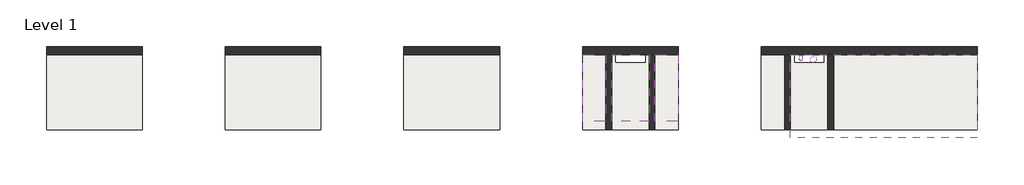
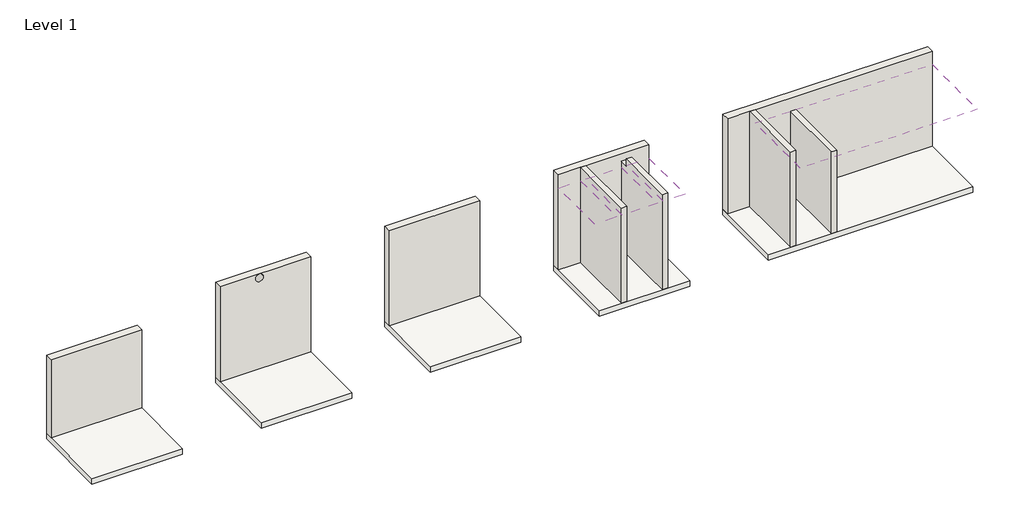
# One storey, incomplete: 9 walls, 5 slabs, 4 coverings, 2 duct fittings.
"""IFC4 building model written with IfcOpenShell, lengths in millimetres."""

from ifc_helpers import new_model, si_unit, point, frame, frame_2d, origin, place, context, project, spatial, polyline, circle_curve, trimmed, segment, composite_curve, outline, extrude, faceted_brep, transform, mapped, element, save
from components import duct_fitting_cf8d5976, duct_fitting_80_125_7c03a684

model = new_model("IFC4")

# Units and contexts
model_context = context("Model", 3, world=origin())
ifc_project = project(units=[si_unit("LENGTHUNIT", "METRE", prefix="MILLI")], contexts=[model_context])

# Site, building, storey
site = spatial("IfcSite", under=ifc_project)
building = spatial("IfcBuilding", under=site)
storey = spatial("IfcBuildingStorey", under=building, Name="Level 1", Elevation=113.9019715)

# Coverings
placement = place(None, origin())
element("IfcCovering", 1, ObjectType="Plain", at=placement, inside=storey, context=model_context, shape_type="SweptSolid", body=[
    extrude(outline(polyline([(6215.1118885, 3392.2435118), (6215.1118885, 1392.2435118), (1715.1118885, 1392.2435118), (1715.1118885, 3392.2435118), (6215.1118885, 3392.2435118)]), holes=[composite_curve([segment(trimmed(circle_curve(frame_2d((2068.1118885, 3289.565679)), 67.0), [point((2001.1118885, 3289.565679))], [point((2135.1118885, 3289.565679))], True, "CARTESIAN"), True, "CONTINUOUS"), segment(trimmed(circle_curve(frame_2d((2068.1118885, 3289.565679)), 67.0), [point((2135.1118885, 3289.565679))], [point((2001.1118885, 3289.565679))], True, "CARTESIAN"), True, "CONTINUOUS")], self_intersect=False), composite_curve([segment(trimmed(circle_curve(frame_2d((2262.1118885, 3284.565679)), 85.0), [point((2177.1118885, 3284.565679))], [point((2347.1118885, 3284.565679))], True, "CARTESIAN"), True, "CONTINUOUS"), segment(trimmed(circle_curve(frame_2d((2262.1118885, 3284.565679)), 85.0), [point((2347.1118885, 3284.565679))], [point((2177.1118885, 3284.565679))], True, "CARTESIAN"), True, "CONTINUOUS")], self_intersect=False), composite_curve([segment(trimmed(circle_curve(frame_2d((2540.1118885, 3284.565679)), 70.0), [point((2470.1118885, 3284.565679))], [point((2610.1118885, 3284.565679))], True, "CARTESIAN"), True, "CONTINUOUS"), segment(trimmed(circle_curve(frame_2d((2540.1118885, 3284.565679)), 70.0), [point((2610.1118885, 3284.565679))], [point((2470.1118885, 3284.565679))], True, "CARTESIAN"), True, "CONTINUOUS")], self_intersect=False), composite_curve([segment(trimmed(circle_curve(frame_2d((4839.1118885, 1822.2435118)), 71.0), [point((4768.1118885, 1822.2435118))], [point((4910.1118885, 1822.2435118))], True, "CARTESIAN"), True, "CONTINUOUS"), segment(trimmed(circle_curve(frame_2d((4839.1118885, 1822.2435118)), 71.0), [point((4910.1118885, 1822.2435118))], [point((4768.1118885, 1822.2435118))], True, "CARTESIAN"), True, "CONTINUOUS")], self_intersect=False)]), frame((0.0, 0.0, 2313.9019715), z_axis=(0.0, 0.0, 1.0), x_axis=(1.0, 0.0, 0.0)), (0.0, 0.0, 1.0), 57.0),
])
element("IfcCovering", 2, ObjectType="Plain", at=placement, inside=storey, context=model_context, shape_type="SweptSolid", body=[
    extrude(outline(polyline([(-2724.8881115, 3392.2435118), (-2724.8881115, 1792.2435118), (-3284.8881115, 1792.2435118), (-3284.8881115, 3392.2435118), (-2724.8881115, 3392.2435118)])), frame((0.0, 0.0, 2313.9019715), z_axis=(0.0, 0.0, 1.0), x_axis=(1.0, 0.0, 0.0)), (0.0, 0.0, 1.0), 57.0),
])
element("IfcCovering", 3, ObjectType="Plain", at=placement, inside=storey, context=model_context, shape_type="SweptSolid", body=[
    extrude(outline(polyline([(-984.8881115, 3392.2435118), (-984.8881115, 1792.2435118), (-1544.8881115, 1792.2435118), (-1544.8881115, 3392.2435118), (-984.8881115, 3392.2435118)])), frame((0.0, 0.0, 2313.9019715), z_axis=(0.0, 0.0, 1.0), x_axis=(1.0, 0.0, 0.0)), (0.0, 0.0, 1.0), 57.0),
])
element("IfcCovering", 4, ObjectType="Transparent", at=placement, inside=storey, context=model_context, shape_type="SweptSolid", body=[
    extrude(outline(polyline([(-1684.8881115, 3392.2435118), (-1684.8881115, 1792.2435118), (-2584.8881115, 1792.2435118), (-2584.8881115, 3392.2435118), (-1684.8881115, 3392.2435118)]), holes=[composite_curve([segment(trimmed(circle_curve(frame_2d((-1854.8881115, 3289.565679)), 67.0), [point((-1921.8881115, 3289.565679))], [point((-1787.8881115, 3289.565679))], True, "CARTESIAN"), True, "CONTINUOUS"), segment(trimmed(circle_curve(frame_2d((-1854.8881115, 3289.565679)), 67.0), [point((-1787.8881115, 3289.565679))], [point((-1921.8881115, 3289.565679))], True, "CARTESIAN"), True, "CONTINUOUS")], self_intersect=False), composite_curve([segment(trimmed(circle_curve(frame_2d((-2231.8881115, 3289.565679)), 67.0), [point((-2298.8881115, 3289.565679))], [point((-2164.8881115, 3289.565679))], True, "CARTESIAN"), True, "CONTINUOUS"), segment(trimmed(circle_curve(frame_2d((-2231.8881115, 3289.565679)), 67.0), [point((-2164.8881115, 3289.565679))], [point((-2298.8881115, 3289.565679))], True, "CARTESIAN"), True, "CONTINUOUS")], self_intersect=False), composite_curve([segment(trimmed(circle_curve(frame_2d((-2042.8881115, 3289.565679)), 80.0), [point((-2122.8881115, 3289.565679))], [point((-1962.8881115, 3289.565679))], True, "CARTESIAN"), True, "CONTINUOUS"), segment(trimmed(circle_curve(frame_2d((-2042.8881115, 3289.565679)), 80.0), [point((-1962.8881115, 3289.565679))], [point((-2122.8881115, 3289.565679))], True, "CARTESIAN"), True, "CONTINUOUS")], self_intersect=False)]), frame((0.0, 0.0, 2313.9019715), z_axis=(0.0, 0.0, 1.0), x_axis=(1.0, 0.0, 0.0)), (0.0, 0.0, 1.0), 57.0),
])

# Duct fittings
duct_fitting_shape = duct_fitting_cf8d5976(model_context)
element("IfcDuctFitting", 5, ObjectType="Renson_Healthbox 3_Reducer_Round_Exhaust Adapter 125-150 : 125-150", at=placement, inside=storey, context=model_context, shape_type="MappedRepresentation", body=[
    mapped(duct_fitting_shape, transform((2266.9659568, 3282.2435118, 1680.0), x_axis=(0.0, 0.0, 1.000000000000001), y_axis=(-1.0000000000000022, 0.0, 0.0), z_axis=(0.0, -1.000000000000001, 0.0))),
])
duct_fitting_80_125_shape = duct_fitting_80_125_7c03a684(model_context)
element("IfcDuctFitting", 6, ObjectType="Renson_Healthbox 3_Reducer_Round_Adapter 80-125 : 80-125", at=placement, inside=storey, context=model_context, shape_type="MappedRepresentation", body=[
    mapped(duct_fitting_80_125_shape, transform((1995.9659568, 3317.2435118, 1597.0), x_axis=(-1.0, 0.0, 0.0), y_axis=(0.0, 0.0, -1.0), z_axis=(0.0, -1.0, 0.0))),
])

# Slabs
element("IfcSlab", 7, ObjectType="Generic 150mm (c)", at=placement, inside=storey, context=model_context, shape_type="SweptSolid", body=[
    extrude(outline(polyline([(-5284.8881115, 3592.2435118), (-5284.8881115, 1592.2435118), (-7584.8881115, 1592.2435118), (-7584.8881115, 3592.2435118), (-5284.8881115, 3592.2435118)])), frame((0.0, 0.0, -36.0980285), z_axis=(0.0, 0.0, 1.0), x_axis=(1.0, 0.0, 0.0)), (0.0, 0.0, 1.0), 150.0),
])
element("IfcSlab", 8, ObjectType="Generic 150mm (c)", at=placement, inside=storey, context=model_context, shape_type="SweptSolid", body=[
    extrude(outline(polyline([(-13884.8881115, 3592.2435118), (-13884.8881115, 1592.2435118), (-16184.8881115, 1592.2435118), (-16184.8881115, 3592.2435118), (-13884.8881115, 3592.2435118)])), frame((0.0, 0.0, -36.0980285), z_axis=(0.0, 0.0, 1.0), x_axis=(1.0, 0.0, 0.0)), (0.0, 0.0, 1.0), 150.0),
])
element("IfcSlab", 9, ObjectType="Generic 150mm (c)", at=placement, inside=storey, context=model_context, shape_type="SweptSolid", body=[
    extrude(outline(polyline([(-9584.8881115, 3592.2435118), (-9584.8881115, 1592.2435118), (-11884.8881115, 1592.2435118), (-11884.8881115, 3592.2435118), (-9584.8881115, 3592.2435118)])), frame((0.0, 0.0, -36.0980285), z_axis=(0.0, 0.0, 1.0), x_axis=(1.0, 0.0, 0.0)), (0.0, 0.0, 1.0), 150.0),
])
element("IfcSlab", 10, ObjectType="Generic 150mm (c)", at=placement, inside=storey, context=model_context, shape_type="SweptSolid", body=[
    extrude(outline(polyline([(6215.1118885, 3592.2435118), (6215.1118885, 1592.2435118), (1015.1118885, 1592.2435118), (1015.1118885, 3592.2435118), (6215.1118885, 3592.2435118)]), holes=[polyline([(2517.211786, 3212.2435118), (2517.211786, 3392.2435118), (1813.1118885, 3392.2435118), (1813.1118885, 3212.2435118), (2517.211786, 3212.2435118)])]), frame((0.0, 0.0, -36.0980285), z_axis=(0.0, 0.0, 1.0), x_axis=(1.0, 0.0, 0.0)), (0.0, 0.0, 1.0), 150.0),
])
element("IfcSlab", 11, ObjectType="Generic 150mm (c)", at=placement, inside=storey, context=model_context, shape_type="SweptSolid", body=[
    extrude(outline(polyline([(-984.8881115, 3592.2435118), (-984.8881115, 1592.2435118), (-3284.8881115, 1592.2435118), (-3284.8881115, 3592.2435118), (-984.8881115, 3592.2435118)]), holes=[polyline([(-1782.788214, 3392.2435118), (-2486.8881115, 3392.2435118), (-2486.8881115, 3212.2435118), (-1782.788214, 3212.2435118), (-1782.788214, 3392.2435118)])]), frame((0.0, 0.0, -36.0980285), z_axis=(0.0, 0.0, 1.0), x_axis=(1.0, 0.0, 0.0)), (0.0, 0.0, 1.0), 150.0),
])

# Walls
element("IfcWall", 12, ObjectType="Generic - 140mm Masonry", at=placement, inside=storey, context=model_context, shape_type="SweptSolid", body=[
    extrude(outline(polyline([(1575.1118885, 1592.2435118), (1575.1118885, 3392.2435118), (1715.1118885, 3392.2435118), (1715.1118885, 1592.2435118), (1575.1118885, 1592.2435118)])), frame((0.0, 0.0, 113.9019715), z_axis=(0.0, 0.0, 1.0), x_axis=(1.0, 0.0, 0.0)), (0.0, 0.0, 1.0), 2556.9676902),
])
element("IfcWall", 13, ObjectType="Generic - 140mm Masonry", at=placement, inside=storey, context=model_context, shape_type="SweptSolid", body=[
    extrude(outline(polyline([(2615.1118885, 1592.2435118), (2615.1118885, 3392.2435118), (2755.1118885, 3392.2435118), (2755.1118885, 1592.2435118), (2615.1118885, 1592.2435118)])), frame((0.0, 0.0, 113.9019715), z_axis=(0.0, 0.0, 1.0), x_axis=(1.0, 0.0, 0.0)), (0.0, 0.0, 1.0), 2200.0),
])
element("IfcWall", 14, ObjectType="Generic - 140mm Masonry", at=placement, inside=storey, context=model_context, shape_type="SweptSolid", body=[
    extrude(outline(polyline([(-2724.8881115, 1592.2435118), (-2724.8881115, 3392.2435118), (-2584.8881115, 3392.2435118), (-2584.8881115, 1592.2435118), (-2724.8881115, 1592.2435118)])), frame((0.0, 0.0, 113.9019715), z_axis=(0.0, 0.0, 1.0), x_axis=(1.0, 0.0, 0.0)), (0.0, 0.0, 1.0), 2556.9676902),
])
element("IfcWall", 15, ObjectType="Generic - 140mm Masonry", at=placement, inside=storey, context=model_context, shape_type="SweptSolid", body=[
    extrude(outline(polyline([(3392.2435118, 113.9019715), (1592.2435118, 113.9019715), (1592.2435118, 2670.9019715), (3175.5844394, 2670.9019715), (3175.5844394, 2475.9019715), (3392.2435118, 2475.9019715), (3392.2435118, 113.9019715)])), frame((-1684.8881115, 0.0, 0.0), z_axis=(1.0, 0.0, 0.0), x_axis=(0.0, 1.0, 0.0)), (0.0, 0.0, 1.0), 140.0),
])
element("IfcWall", 16, ObjectType="Generic - 200mm", at=placement, inside=storey, context=model_context, shape_type="Brep", body=[
    faceted_brep([(-7584.8881115, 3392.2435118, 113.9019715), (-5284.8881115, 3392.2435118, 113.9019715), (-5284.8881115, 3392.2435118, 2670.8696617), (-5939.8881115, 3392.2435118, 2670.8696617), (-6974.8881115, 3392.2435118, 2670.8696617), (-7584.8881115, 3392.2435118, 2670.8696617), (-7584.8881115, 3592.2435118, 113.9019715), (-7584.8881115, 3592.2435118, 2670.8696617), (-5284.8881115, 3592.2435118, 2670.8696617), (-5284.8881115, 3592.2435118, 113.9019715)], [[[0, 1, 2, 3, 4, 5]], [[6, 7, 8, 9]], [[1, 0, 6, 9]], [[2, 1, 9, 8]], [[0, 5, 7, 6]], [[5, 4, 3, 2, 8, 7]]]),
])
element("IfcWall", 17, ObjectType="Generic - 200mm", at=placement, inside=storey, context=model_context, shape_type="SweptSolid", body=[
    extrude(outline(polyline([(-13884.8881115, 3392.2435118), (-16184.8881115, 3392.2435118), (-16184.8881115, 3592.2435118), (-13884.8881115, 3592.2435118), (-13884.8881115, 3392.2435118)])), frame((0.0, 0.0, 113.9019715), z_axis=(0.0, 0.0, 1.0), x_axis=(1.0, 0.0, 0.0)), (0.0, 0.0, 1.0), 2107.0),
])
element("IfcWall", 18, ObjectType="Generic - 200mm", at=placement, inside=storey, context=model_context, shape_type="SweptSolid", body=[
    extrude(outline(polyline([(113.9019715, -11884.8881115), (113.9019715, -9584.8881115), (2670.9019715, -9584.8881115), (2670.9019715, -11884.8881115), (113.9019715, -11884.8881115)]), holes=[composite_curve([segment(trimmed(circle_curve(frame_2d((2563.9019715, -10884.8881115)), 100.0), [point((2563.9019715, -10784.8881115))], [point((2563.9019715, -10984.8881115))], True, "CARTESIAN"), True, "CONTINUOUS"), segment(trimmed(circle_curve(frame_2d((2563.9019715, -10884.8881115)), 100.0), [point((2563.9019715, -10984.8881115))], [point((2563.9019715, -10784.8881115))], True, "CARTESIAN"), True, "CONTINUOUS")], self_intersect=False)]), frame((0.0, 3392.2435118, 0.0), z_axis=(0.0, 1.0, 0.0), x_axis=(0.0, 0.0, 1.0)), (0.0, 0.0, 1.0), 200.0),
])
element("IfcWall", 19, ObjectType="Generic - 200mm", at=placement, inside=storey, context=model_context, shape_type="Brep", body=[
    faceted_brep([(1015.1118885, 3392.2435118, 113.9019715), (1575.1118885, 3392.2435118, 113.9019715), (1715.1118885, 3392.2435118, 113.9019715), (2615.1118885, 3392.2435118, 113.9019715), (2755.1118885, 3392.2435118, 113.9019715), (6215.1118885, 3392.2435118, 113.9019715), (6215.1118885, 3392.2435118, 2670.8696617), (1715.1118885, 3392.2435118, 2670.8696617), (1575.1118885, 3392.2435118, 2670.8696617), (1015.1118885, 3392.2435118, 2670.8696617), (1015.1118885, 3592.2435118, 113.9019715), (1015.1118885, 3592.2435118, 2670.8696617), (6215.1118885, 3592.2435118, 2670.8696617), (6215.1118885, 3592.2435118, 113.9019715)], [[[0, 1, 2, 3, 4, 5, 6, 7, 8, 9]], [[10, 11, 12, 13]], [[5, 4, 3, 2, 1, 0, 10, 13]], [[6, 5, 13, 12]], [[9, 8, 7, 6, 12, 11]], [[0, 9, 11, 10]]]),
])
element("IfcWall", 20, ObjectType="Generic - 200mm", at=placement, inside=storey, context=model_context, shape_type="Brep", body=[
    faceted_brep([(-3284.8881115, 3392.2435118, 113.9019715), (-2724.8881115, 3392.2435118, 113.9019715), (-2584.8881115, 3392.2435118, 113.9019715), (-984.8881115, 3392.2435118, 113.9019715), (-984.8881115, 3392.2435118, 2670.8696617), (-2584.8881115, 3392.2435118, 2670.8696617), (-2724.8881115, 3392.2435118, 2670.8696617), (-3284.8881115, 3392.2435118, 2670.8696617), (-3284.8881115, 3592.2435118, 113.9019715), (-3284.8881115, 3592.2435118, 2670.8696617), (-984.8881115, 3592.2435118, 2670.8696617), (-984.8881115, 3592.2435118, 113.9019715)], [[[0, 1, 2, 3, 4, 5, 6, 7]], [[8, 9, 10, 11]], [[3, 2, 1, 0, 8, 11]], [[4, 3, 11, 10]], [[0, 7, 9, 8]], [[7, 6, 5, 4, 10, 9]]]),
])

save(model, "model.ifc")
